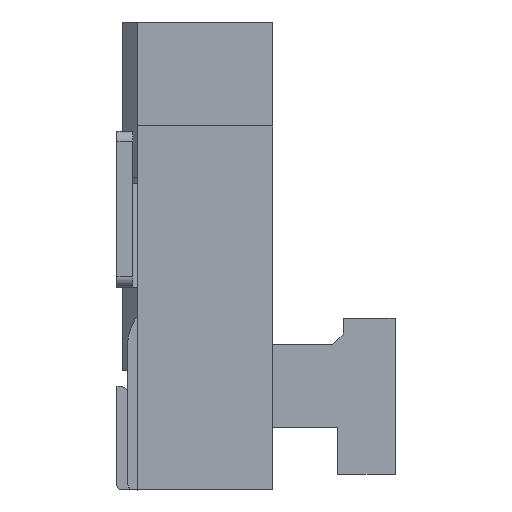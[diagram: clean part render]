
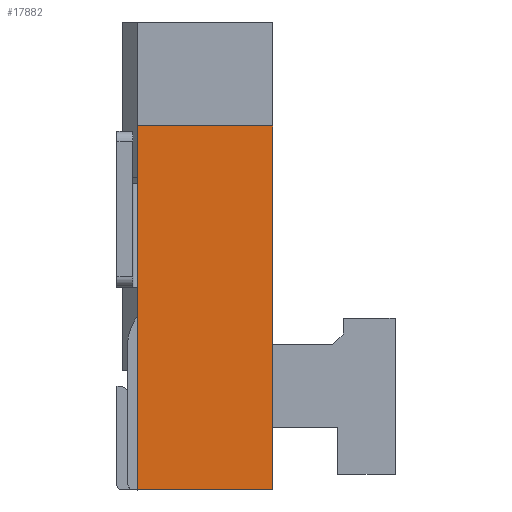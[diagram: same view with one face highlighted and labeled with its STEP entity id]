
A CAD part, left-side view. The second image highlights one B-rep face of the part: STEP entity #17882.
In plain terms, the highlighted planar face has unit normal (-1, 0, 0).
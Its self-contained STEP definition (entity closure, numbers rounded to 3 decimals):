
#3581=DIRECTION('',(0.,0.,-1.));
#3582=VECTOR('',#3581,3.5);
#3583=CARTESIAN_POINT('',(-14.05,-0.15,-1.));
#3584=LINE('',#3583,#3582);
#3675=DIRECTION('',(0.,0.,-1.));
#3676=VECTOR('',#3675,3.5);
#3677=CARTESIAN_POINT('',(-14.05,-1.45,-1.));
#3678=LINE('',#3677,#3676);
#3679=DIRECTION('',(0.,1.,0.));
#3680=VECTOR('',#3679,1.3);
#3681=CARTESIAN_POINT('',(-14.05,-1.45,-4.5));
#3682=LINE('',#3681,#3680);
#3683=DIRECTION('',(0.,-1.,0.));
#3684=VECTOR('',#3683,1.3);
#3685=CARTESIAN_POINT('',(-14.05,-0.15,-1.));
#3686=LINE('',#3685,#3684);
#12495=CARTESIAN_POINT('',(-14.05,-1.45,-4.5));
#12496=VERTEX_POINT('',#12495);
#12497=CARTESIAN_POINT('',(-14.05,-1.45,-1.));
#12498=VERTEX_POINT('',#12497);
#12715=CARTESIAN_POINT('',(-14.05,-0.15,-1.));
#12716=VERTEX_POINT('',#12715);
#12717=CARTESIAN_POINT('',(-14.05,-0.15,-4.5));
#12718=VERTEX_POINT('',#12717);
#17870=CARTESIAN_POINT('',(-14.05,-0.8,-2.75));
#17871=DIRECTION('',(1.,0.,0.));
#17872=DIRECTION('',(0.,0.,1.));
#17873=AXIS2_PLACEMENT_3D('',#17870,#17871,#17872);
#17874=PLANE('',#17873);
#17875=ORIENTED_EDGE('',*,*,#14245,.T.);
#17876=ORIENTED_EDGE('',*,*,#17850,.T.);
#17877=ORIENTED_EDGE('',*,*,#17735,.F.);
#17879=ORIENTED_EDGE('',*,*,#17878,.T.);
#17880=EDGE_LOOP('',(#17875,#17876,#17877,#17879));
#17881=FACE_OUTER_BOUND('',#17880,.F.);
#17882=ADVANCED_FACE('',(#17881),#17874,.F.);
#14245=EDGE_CURVE('',#12498,#12496,#3678,.T.);
#17735=EDGE_CURVE('',#12716,#12718,#3584,.T.);
#17850=EDGE_CURVE('',#12496,#12718,#3682,.T.);
#17878=EDGE_CURVE('',#12716,#12498,#3686,.T.);
